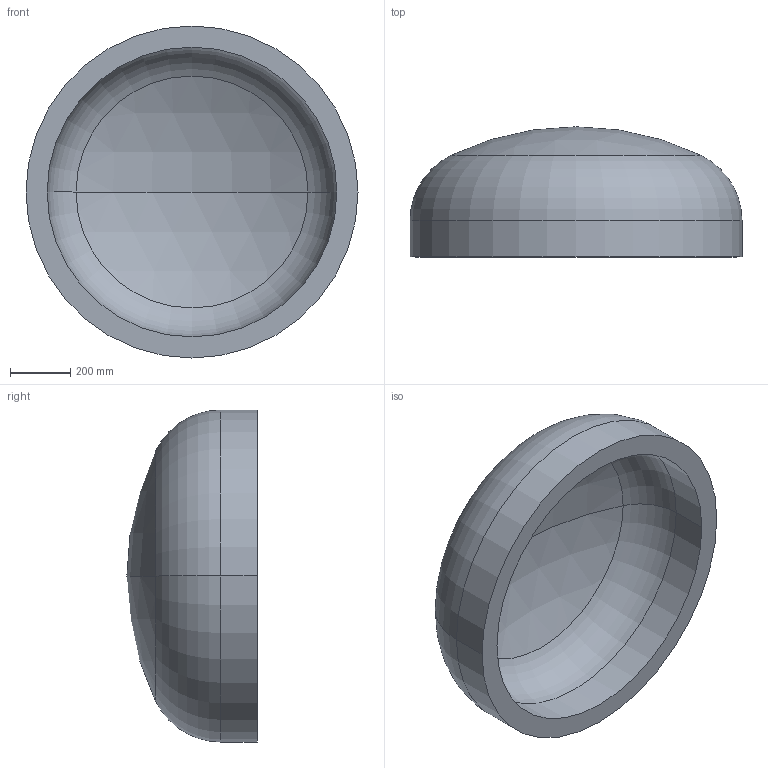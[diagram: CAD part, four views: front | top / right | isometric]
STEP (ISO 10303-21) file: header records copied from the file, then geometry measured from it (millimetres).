
FILE_DESCRIPTION (( 'STEP AP203' ), '1' );
FILE_NAME ('DIN 28013 Korbbogenform_-_Boden DIN 28013 - 1100 x 120 - I - s=70.step', '2016-07-01T09:12:18', ( '' ), ( '' ), 'SwSTEP 2.0', 'SolidWorks 2013', '' );
FILE_SCHEMA (( 'CONFIG_CONTROL_DESIGN' ));
Length unit declared in the file: millimetre
Products named in the file (1): DIN 28013 Korbbogenform_-_Boden DIN 28013 - 1100 x 120 - I - s=70
Bounding box: 1100 x 431.25 x 1100 mm (x, y, z)
Volume: 112218390.2 mm3; surface area: 3443010.4 mm2
Topology: 1 solids, 1 shells, 13 faces, 24 edges, 14 vertices
Faces by surface type: torus 4, cylinder 4, sphere 4, plane 1
Entity records: 407 total; most frequent: DIRECTION 72, CARTESIAN_POINT 52, ORIENTED_EDGE 48, AXIS2_PLACEMENT_3D 34, EDGE_CURVE 24, CIRCLE 20, EDGE_LOOP 14, VERTEX_POINT 14
